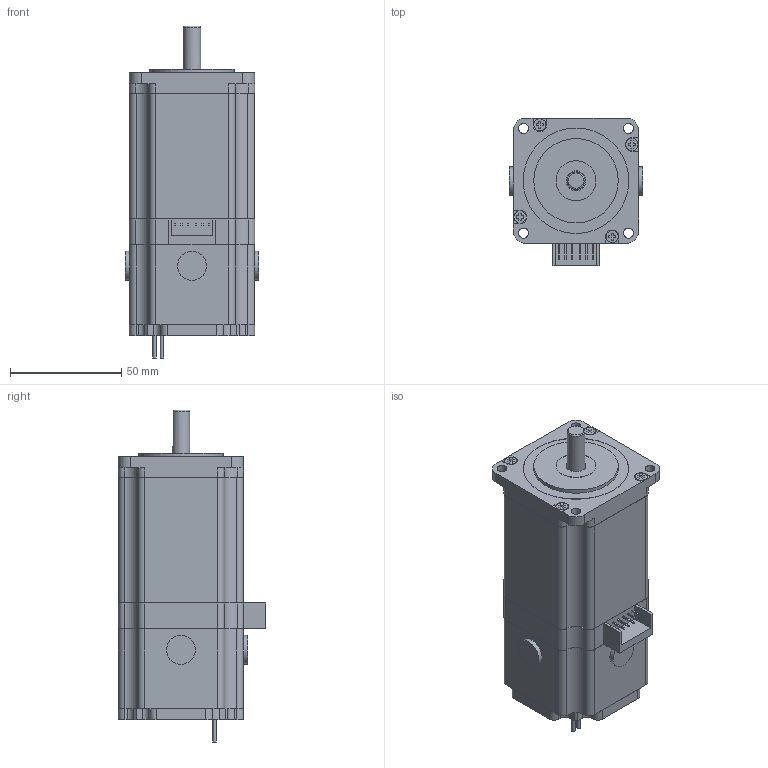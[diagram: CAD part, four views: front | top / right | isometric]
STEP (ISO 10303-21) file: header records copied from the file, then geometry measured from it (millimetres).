
FILE_DESCRIPTION(/* description */ (''),/* implementation_level */ '2;1');
FILE_NAME(/* name */ 'UB57D24-D30-678.stp',/* time_stamp */ '2018-08-20T11:31:56+08:00',/* author */ (''),/* organization */ (''),/* preprocessor_version */ 'ST-DEVELOPER v11',/* originating_system */ 'SIEMENS UGS NX 6.0',/* authorisation */ '');
FILE_SCHEMA (('CONFIG_CONTROL_DESIGN'));
Length unit declared in the file: millimetre
Products named in the file (1): UB57D24-D30-678
Bounding box: 60.2 x 66.4 x 149.5 mm (x, y, z)
Volume: 344501.8 mm3; surface area: 33227.2 mm2
Topology: 1 solids, 2 shells, 271 faces, 712 edges, 473 vertices
Faces by surface type: plane 178, cylinder 92, torus 1
Full cylindrical faces by diameter (mm): 1.5 x2, 4.5 x4, 5.5 x4, 6 x1, 8 x1, 9 x2, 13 x3, 18 x1, 38 x1, 47.5 x1
Entity records: 8350 total; most frequent: CARTESIAN_POINT 1466, DIRECTION 1423, ORIENTED_EDGE 1374, EDGE_CURVE 687, LINE 491, VECTOR 491, VERTEX_POINT 468, AXIS2_PLACEMENT_3D 466
